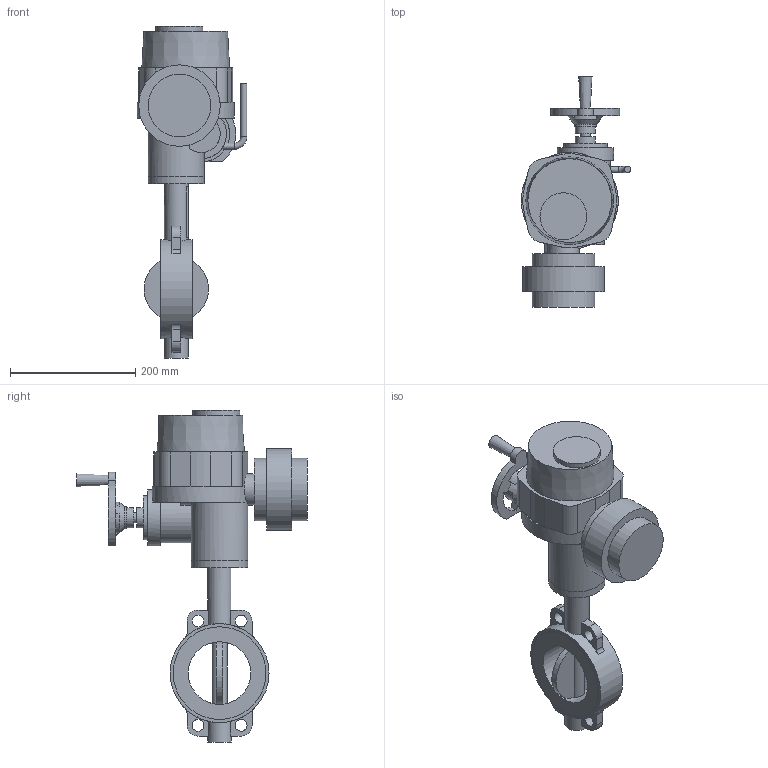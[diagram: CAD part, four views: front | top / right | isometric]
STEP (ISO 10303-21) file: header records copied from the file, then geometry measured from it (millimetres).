
FILE_DESCRIPTION(('STEP AP203'), '1');
FILE_NAME('青蜮铕 017W.ZS DN100+菹 QT.A008', '', ('UNSPECIFIED'), ('UNSPECIFIED'), 'ASCON STEP Converter 1.6', 'ASCON Math Kernel', '');
FILE_SCHEMA(('CONFIG_CONTROL_DESIGN'));
Length unit declared in the file: millimetre
Bounding box: 175 x 368 x 530 mm (x, y, z)
Volume: 4557894.7 mm3; surface area: 372957.3 mm2
Topology: 1 solids, 2 shells, 721 faces, 2072 edges, 1333 vertices
Faces by surface type: cylinder 495, plane 222, cone 3, torus 1
Full cylindrical faces by diameter (mm): 6.7 x4, 10 x6, 15.9 x1, 16 x1, 19 x4, 20 x1, 32 x2, 35 x1, 38 x2, 50 x1, 55 x1, 70 x1, 75 x1, 90 x3, 100 x3, 130 x1, 148 x2, 158 x1
Entity records: 30917 total; most frequent: CARTESIAN_POINT 5362, DIRECTION 4514, ORIENTED_EDGE 4003, EDGE_CURVE 2033, AXIS2_PLACEMENT_3D 1789, VERTEX_POINT 1333, CIRCLE 1067, LINE 936
